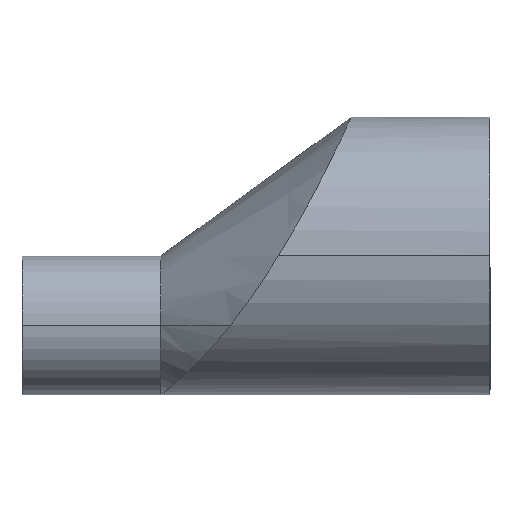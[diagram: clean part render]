
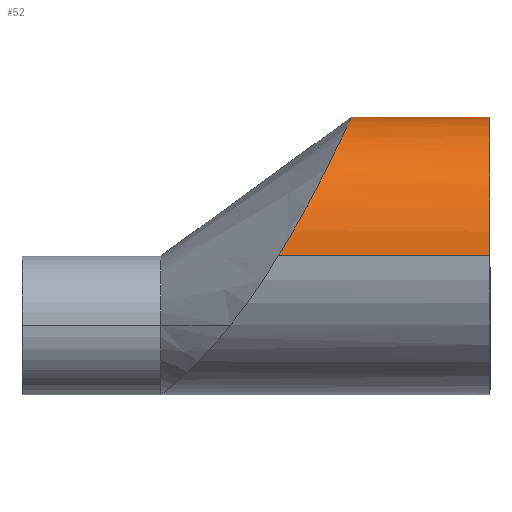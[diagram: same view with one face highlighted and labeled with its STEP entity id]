
A CAD part, top view. The second image highlights one B-rep face of the part: STEP entity #52.
In plain terms, the highlighted cylindrical face has radius 25.4 mm (diameter 50.8 mm), a partial arc.
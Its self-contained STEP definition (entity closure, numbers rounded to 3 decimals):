
#8 = CARTESIAN_POINT ( 'NONE',  ( -30.517, 14.778, -20.675 ) ) ;
#10 = CARTESIAN_POINT ( 'NONE',  ( -25.401, 25.398, 0.536 ) ) ;
#14 = CARTESIAN_POINT ( 'NONE',  ( -26.091, 23.901, 8.777 ) ) ;
#18 = CARTESIAN_POINT ( 'NONE',  ( -38.74, 0., -25.4 ) ) ;
#19 = CARTESIAN_POINT ( 'NONE',  ( -85.725, 0., 0. ) ) ;
#35 = CARTESIAN_POINT ( 'NONE',  ( -85.725, 0., 25.4 ) ) ;
#41 = ORIENTED_EDGE ( 'NONE', *, *, #429, .F. ) ;
#52 = ADVANCED_FACE ( 'NONE', ( #257 ), #520, .T. ) ;
#57 = CARTESIAN_POINT ( 'NONE',  ( -29.132, 17.547, 18.369 ) ) ;
#69 = CARTESIAN_POINT ( 'NONE',  ( -29.537, 16.727, -19.133 ) ) ;
#72 = CARTESIAN_POINT ( 'NONE',  ( -25.841, 24.443, -6.922 ) ) ;
#75 = CARTESIAN_POINT ( 'NONE',  ( -27.173, 21.592, 13.485 ) ) ;
#85 = LINE ( 'NONE', #158, #617 ) ;
#102 = CARTESIAN_POINT ( 'NONE',  ( -34.344, 7.538, 24.308 ) ) ;
#114 = ORIENTED_EDGE ( 'NONE', *, *, #351, .F. ) ;
#115 = CARTESIAN_POINT ( 'NONE',  ( -31.613, 12.646, 22.043 ) ) ;
#121 = CARTESIAN_POINT ( 'NONE',  ( -36.904, 3.052, -25.228 ) ) ;
#122 = CARTESIAN_POINT ( 'NONE',  ( -33.102, 9.83, -23.424 ) ) ;
#127 = CARTESIAN_POINT ( 'NONE',  ( -25.688, 24.773, -5.628 ) ) ;
#128 = CARTESIAN_POINT ( 'NONE',  ( -28.142, 19.572, 16.211 ) ) ;
#150 = CARTESIAN_POINT ( 'NONE',  ( -36.912, 3.027, 25.265 ) ) ;
#158 = CARTESIAN_POINT ( 'NONE',  ( -85.725, 0., -25.4 ) ) ;
#165 = EDGE_CURVE ( 'NONE', #615, #687, #506, .T. ) ;
#168 = CARTESIAN_POINT ( 'NONE',  ( -30.551, 14.703, 20.774 ) ) ;
#170 = CARTESIAN_POINT ( 'NONE',  ( -35.144, 6.102, -24.705 ) ) ;
#173 = CARTESIAN_POINT ( 'NONE',  ( -28.083, 19.691, -16.136 ) ) ;
#175 = CARTESIAN_POINT ( 'NONE',  ( -25.43, 25.335, 1.873 ) ) ;
#180 = ORIENTED_EDGE ( 'NONE', *, *, #165, .F. ) ;
#186 = CARTESIAN_POINT ( 'NONE',  ( 0., 0., 25.4 ) ) ;
#206 = CARTESIAN_POINT ( 'NONE',  ( 0., 0., -25.4 ) ) ;
#217 = CARTESIAN_POINT ( 'NONE',  ( -31.572, 12.724, -21.998 ) ) ;
#222 = CARTESIAN_POINT ( 'NONE',  ( -38.74, 0., -25.4 ) ) ;
#225 = CARTESIAN_POINT ( 'NONE',  ( -33.301, 9.461, -23.576 ) ) ;
#227 = VECTOR ( 'NONE', #675, 1000. ) ;
#228 = CARTESIAN_POINT ( 'NONE',  ( -27.148, 21.648, -13.314 ) ) ;
#229 = CARTESIAN_POINT ( 'NONE',  ( -25.514, 25.152, 3.655 ) ) ;
#232 = VERTEX_POINT ( 'NONE', #678 ) ;
#257 = FACE_OUTER_BOUND ( 'NONE', #331, .T. ) ;
#263 = CARTESIAN_POINT ( 'NONE',  ( -37.808, 1.515, 25.4 ) ) ;
#286 = CARTESIAN_POINT ( 'NONE',  ( -26.557, 22.903, -11.017 ) ) ;
#288 = CARTESIAN_POINT ( 'NONE',  ( -25.838, 24.448, 7.111 ) ) ;
#309 = EDGE_CURVE ( 'NONE', #232, #687, #509, .T. ) ;
#312 = CARTESIAN_POINT ( 'NONE',  ( -32.548, 10.867, 22.962 ) ) ;
#330 = CARTESIAN_POINT ( 'NONE',  ( -28.692, 18.443, 17.469 ) ) ;
#331 = EDGE_LOOP ( 'NONE', ( #41, #428, #180, #114 ) ) ;
#334 = CARTESIAN_POINT ( 'NONE',  ( -31.94, 12.017, -22.392 ) ) ;
#337 = CARTESIAN_POINT ( 'NONE',  ( -28.624, 18.575, -17.406 ) ) ;
#338 = CARTESIAN_POINT ( 'NONE',  ( -26.085, 23.915, -8.602 ) ) ;
#340 = CARTESIAN_POINT ( 'NONE',  ( 0., 0., 0. ) ) ;
#341 = CARTESIAN_POINT ( 'NONE',  ( -26.765, 22.458, 11.996 ) ) ;
#351 = EDGE_CURVE ( 'NONE', #530, #615, #85, .T. ) ;
#353 = DIRECTION ( 'NONE',  ( 1., 0., 0. ) ) ;
#371 = CARTESIAN_POINT ( 'NONE',  ( -33.134, 9.77, 23.449 ) ) ;
#379 = CARTESIAN_POINT ( 'NONE',  ( -29.893, 16.009, 19.791 ) ) ;
#383 = AXIS2_PLACEMENT_3D ( 'NONE', #19, #665, #436 ) ;
#390 = CARTESIAN_POINT ( 'NONE',  ( -30.86, 14.105, -21.14 ) ) ;
#391 = CARTESIAN_POINT ( 'NONE',  ( -25.736, 24.67, -6.064 ) ) ;
#394 = CARTESIAN_POINT ( 'NONE',  ( -27.887, 20.101, 15.551 ) ) ;
#400 = CARTESIAN_POINT ( 'NONE',  ( -38.275, 0.756, -25.4 ) ) ;
#401 = DIRECTION ( 'NONE',  ( 0., 0., -1. ) ) ;
#422 = CARTESIAN_POINT ( 'NONE',  ( -33.334, 9.398, 23.601 ) ) ;
#428 = ORIENTED_EDGE ( 'NONE', *, *, #309, .T. ) ;
#429 = EDGE_CURVE ( 'NONE', #232, #530, #632, .T. ) ;
#430 = CARTESIAN_POINT ( 'NONE',  ( -28.982, 17.851, 18.074 ) ) ;
#436 = DIRECTION ( 'NONE',  ( 0., 0., -1. ) ) ;
#441 = CARTESIAN_POINT ( 'NONE',  ( -29.856, 16.088, -19.673 ) ) ;
#445 = CARTESIAN_POINT ( 'NONE',  ( -25.478, 25.228, -3.445 ) ) ;
#449 = CARTESIAN_POINT ( 'NONE',  ( -28.551, 18.732, 17.16 ) ) ;
#475 = CARTESIAN_POINT ( 'NONE',  ( -35.18, 6.038, 24.719 ) ) ;
#485 = CARTESIAN_POINT ( 'NONE',  ( -37.815, 1.518, -25.366 ) ) ;
#487 = AXIS2_PLACEMENT_3D ( 'NONE', #340, #353, #401 ) ;
#492 = CARTESIAN_POINT ( 'NONE',  ( -34.306, 7.607, -24.286 ) ) ;
#494 = CARTESIAN_POINT ( 'NONE',  ( -27.37, 21.181, -14.044 ) ) ;
#497 = CARTESIAN_POINT ( 'NONE',  ( -25.397, 25.406, -1.684 ) ) ;
#506 = CIRCLE ( 'NONE', #487, 25.4 ) ;
#509 = LINE ( 'NONE', #35, #227 ) ;
#520 = CYLINDRICAL_SURFACE ( 'NONE', #383, 25.4 ) ;
#530 = VERTEX_POINT ( 'NONE', #222 ) ;
#532 = DIRECTION ( 'NONE',  ( 1., 0., 0. ) ) ;
#542 = CARTESIAN_POINT ( 'NONE',  ( -36.456, 3.819, -25.123 ) ) ;
#545 = CARTESIAN_POINT ( 'NONE',  ( -26.74, 22.512, -11.796 ) ) ;
#547 = CARTESIAN_POINT ( 'NONE',  ( -25.407, 25.385, 0.981 ) ) ;
#576 = CARTESIAN_POINT ( 'NONE',  ( -38.74, 0., 25.4 ) ) ;
#598 = CARTESIAN_POINT ( 'NONE',  ( -32.513, 10.933, -22.93 ) ) ;
#600 = CARTESIAN_POINT ( 'NONE',  ( -26.229, 23.605, -9.42 ) ) ;
#603 = CARTESIAN_POINT ( 'NONE',  ( -25.447, 25.298, 2.322 ) ) ;
#615 = VERTEX_POINT ( 'NONE', #206 ) ;
#617 = VECTOR ( 'NONE', #532, 1000. ) ;
#625 = CARTESIAN_POINT ( 'NONE',  ( -31.979, 11.944, 22.431 ) ) ;
#632 = B_SPLINE_CURVE_WITH_KNOTS ( 'NONE', 3,
 ( #576, #263, #150, #475, #102, #422, #371, #680, #312, #625, #115, #168, #379, #57, #430, #330, #449, #128, #394, #75, #341, #14, #288, #659, #229, #603, #175, #547, #10, #497, #445, #127, #391, #72, #656, #338, #600, #286, #545, #228, #494, #173, #337, #69, #441, #8, #390, #217, #334, #598, #653, #122, #225, #492, #170, #542, #121, #485, #400, #18 ),
 .UNSPECIFIED., .F., .F.,
 ( 4, 2, 2, 2, 2, 2, 2, 2, 2, 2, 2, 2, 2, 2, 2, 2, 2, 2, 2, 2, 2, 2, 2, 2, 2, 2, 2, 2, 2, 4 ),
 ( 0.061, 0.066, 0.071, 0.073, 0.074, 0.076, 0.082, 0.083, 0.084, 0.087, 0.092, 0.098, 0.1, 0.102, 0.103, 0.108, 0.109, 0.111, 0.113, 0.116, 0.119, 0.124, 0.127, 0.129, 0.132, 0.133, 0.135, 0.14, 0.142, 0.145 ),
 .UNSPECIFIED. ) ;
#653 = CARTESIAN_POINT ( 'NONE',  ( -32.708, 10.566, -23.101 ) ) ;
#656 = CARTESIAN_POINT ( 'NONE',  ( -25.898, 24.319, -7.346 ) ) ;
#659 = CARTESIAN_POINT ( 'NONE',  ( -25.58, 25.008, 4.53 ) ) ;
#665 = DIRECTION ( 'NONE',  ( 1., 0., 0. ) ) ;
#675 = DIRECTION ( 'NONE',  ( 1., 0., 0. ) ) ;
#678 = CARTESIAN_POINT ( 'NONE',  ( -38.74, 0., 25.4 ) ) ;
#680 = CARTESIAN_POINT ( 'NONE',  ( -32.741, 10.504, 23.13 ) ) ;
#687 = VERTEX_POINT ( 'NONE', #186 ) ;
